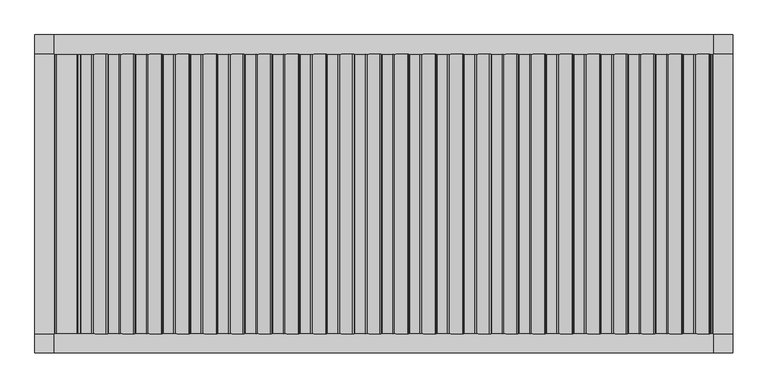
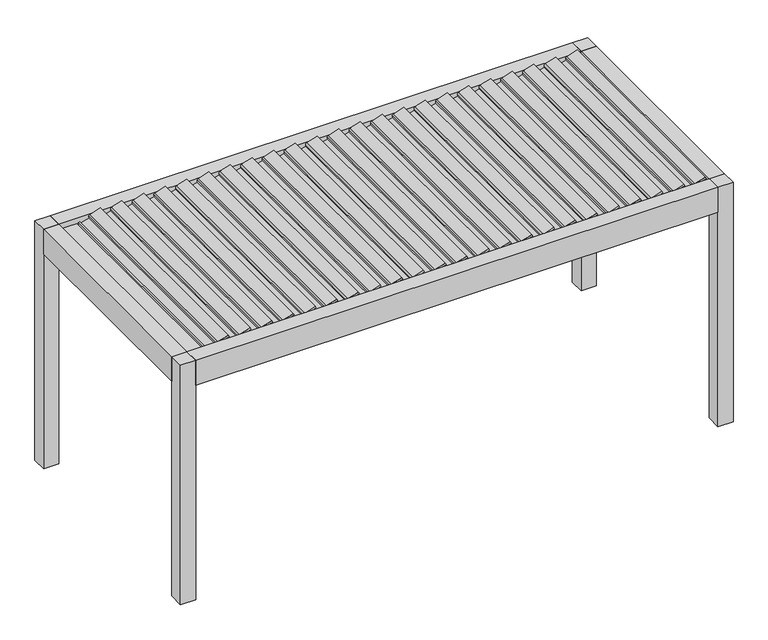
"""IFC4 building model written with IfcOpenShell, lengths in millimetres: proxy geometry, Renson_Camargue_Freestanding_Patio covers : Renson_Camargue_Freestanding_Patio covers."""

from ifc_helpers import new_model, si_unit, point, frame, frame_2d, origin, origin_with_axes, place, context, project, spatial, polyline, circle_curve, trimmed, segment, composite_curve, outline, extrude, source, transform, mapped, element, save


def generic_models_d265cbf2(model_context):
    return source(origin(), model_context, "Body", "SweptSolid", [
        extrude(outline(composite_curve([segment(polyline([(2484.4863486, 2322.3197086), (2511.83214, 2317.4979078), (2520.6331137, 2344.992142), (2538.5732957, 2336.6264977), (2505.0004395, 2231.7449245)]), True, "CONTINUOUS"), segment(trimmed(circle_curve(frame_2d((2490.7145025, 2236.317889)), 15.0), [point((2505.0004395, 2231.7449245))], [point((2489.4071663, 2221.3749685))], False, "CARTESIAN"), True, "CONTINUOUS"), segment(polyline([(2489.4071663, 2221.3749685), (2469.9552563, 2223.0767901), (2447.2475665, 2138.3305382), (2462.9650208, 2131.0013689), (2458.3022482, 2116.4348714), (2430.6272255, 2121.3147246), (2484.4863486, 2322.3197086)]), True, "CONTINUOUS")], self_intersect=False)), frame((0.0, -1100.0, 0.0), z_axis=(0.0, 1.0, 0.0), x_axis=(0.0, 0.0, 1.0)), (0.0, 0.0, 1.0), 2200.0),
        extrude(outline(composite_curve([segment(polyline([(2484.4863486, 2107.3118506), (2511.83214, 2102.4900498), (2520.6331137, 2129.984284), (2538.5732957, 2121.6186397), (2505.0004395, 2016.7370665)]), True, "CONTINUOUS"), segment(trimmed(circle_curve(frame_2d((2490.7145025, 2021.310031)), 15.0), [point((2505.0004395, 2016.7370665))], [point((2489.4071663, 2006.3671105))], False, "CARTESIAN"), True, "CONTINUOUS"), segment(polyline([(2489.4071663, 2006.3671105), (2469.9552563, 2008.0689321), (2447.2475665, 1923.3226802), (2462.9650208, 1915.9935108), (2458.3022482, 1901.4270133), (2430.6272255, 1906.3068665), (2484.4863486, 2107.3118506)]), True, "CONTINUOUS")], self_intersect=False)), frame((0.0, -1100.0, 0.0), z_axis=(0.0, 1.0, 0.0), x_axis=(0.0, 0.0, 1.0)), (0.0, 0.0, 1.0), 2200.0),
        extrude(outline(composite_curve([segment(polyline([(2484.4863486, 1892.3039926), (2511.83214, 1887.4821918), (2520.6331137, 1914.9764259), (2538.5732957, 1906.6107817), (2505.0004395, 1801.7292085)]), True, "CONTINUOUS"), segment(trimmed(circle_curve(frame_2d((2490.7145025, 1806.3021729)), 15.0), [point((2505.0004395, 1801.7292085))], [point((2489.4071663, 1791.3592525))], False, "CARTESIAN"), True, "CONTINUOUS"), segment(polyline([(2489.4071663, 1791.3592525), (2469.9552563, 1793.0610741), (2447.2475665, 1708.3148221), (2462.9650208, 1700.9856528), (2458.3022482, 1686.4191553), (2430.6272255, 1691.2990085), (2484.4863486, 1892.3039926)]), True, "CONTINUOUS")], self_intersect=False)), frame((0.0, -1100.0, 0.0), z_axis=(0.0, 1.0, 0.0), x_axis=(0.0, 0.0, 1.0)), (0.0, 0.0, 1.0), 2200.0),
        extrude(outline(composite_curve([segment(polyline([(2484.4863486, 1677.2961346), (2511.83214, 1672.4743338), (2520.6331137, 1699.9685679), (2538.5732957, 1691.6029236), (2505.0004395, 1586.7213504)]), True, "CONTINUOUS"), segment(trimmed(circle_curve(frame_2d((2490.7145025, 1591.2943149)), 15.0), [point((2505.0004395, 1586.7213504))], [point((2489.4071663, 1576.3513945))], False, "CARTESIAN"), True, "CONTINUOUS"), segment(polyline([(2489.4071663, 1576.3513945), (2469.9552563, 1578.0532161), (2447.2475665, 1493.3069641), (2462.9650208, 1485.9777948), (2458.3022482, 1471.4112973), (2430.6272255, 1476.2911505), (2484.4863486, 1677.2961346)]), True, "CONTINUOUS")], self_intersect=False)), frame((0.0, -1100.0, 0.0), z_axis=(0.0, 1.0, 0.0), x_axis=(0.0, 0.0, 1.0)), (0.0, 0.0, 1.0), 2200.0),
        extrude(outline(composite_curve([segment(polyline([(2484.4863486, 1462.2882766), (2511.83214, 1457.4664757), (2520.6331137, 1484.9607099), (2538.5732957, 1476.5950656), (2505.0004395, 1371.7134924)]), True, "CONTINUOUS"), segment(trimmed(circle_curve(frame_2d((2490.7145025, 1376.2864569)), 15.0), [point((2505.0004395, 1371.7134924))], [point((2489.4071663, 1361.3435364))], False, "CARTESIAN"), True, "CONTINUOUS"), segment(polyline([(2489.4071663, 1361.3435364), (2469.9552563, 1363.045358), (2447.2475665, 1278.2991061), (2462.9650208, 1270.9699368), (2458.3022482, 1256.4034393), (2430.6272255, 1261.2832925), (2484.4863486, 1462.2882766)]), True, "CONTINUOUS")], self_intersect=False)), frame((0.0, -1100.0, 0.0), z_axis=(0.0, 1.0, 0.0), x_axis=(0.0, 0.0, 1.0)), (0.0, 0.0, 1.0), 2200.0),
        extrude(outline(composite_curve([segment(polyline([(2484.4863486, 1247.2804185), (2511.83214, 1242.4586177), (2520.6331137, 1269.9528519), (2538.5732957, 1261.5872076), (2505.0004395, 1156.7056344)]), True, "CONTINUOUS"), segment(trimmed(circle_curve(frame_2d((2490.7145025, 1161.2785989)), 15.0), [point((2505.0004395, 1156.7056344))], [point((2489.4071663, 1146.3356784))], False, "CARTESIAN"), True, "CONTINUOUS"), segment(polyline([(2489.4071663, 1146.3356784), (2469.9552563, 1148.0375), (2447.2475665, 1063.2912481), (2462.9650208, 1055.9620787), (2458.3022482, 1041.3955813), (2430.6272255, 1046.2754345), (2484.4863486, 1247.2804185)]), True, "CONTINUOUS")], self_intersect=False)), frame((0.0, -1100.0, 0.0), z_axis=(0.0, 1.0, 0.0), x_axis=(0.0, 0.0, 1.0)), (0.0, 0.0, 1.0), 2200.0),
        extrude(outline(composite_curve([segment(polyline([(2484.4863486, 1032.2725605), (2511.83214, 1027.4507597), (2520.6331137, 1054.9449938), (2538.5732957, 1046.5793496), (2505.0004395, 941.6977764)]), True, "CONTINUOUS"), segment(trimmed(circle_curve(frame_2d((2490.7145025, 946.2707409)), 15.0), [point((2505.0004395, 941.6977764))], [point((2489.4071663, 931.3278204))], False, "CARTESIAN"), True, "CONTINUOUS"), segment(polyline([(2489.4071663, 931.3278204), (2469.9552563, 933.029642), (2447.2475665, 848.28339), (2462.9650208, 840.9542207), (2458.3022482, 826.3877232), (2430.6272255, 831.2675764), (2484.4863486, 1032.2725605)]), True, "CONTINUOUS")], self_intersect=False)), frame((0.0, -1100.0, 0.0), z_axis=(0.0, 1.0, 0.0), x_axis=(0.0, 0.0, 1.0)), (0.0, 0.0, 1.0), 2200.0),
        extrude(outline(composite_curve([segment(polyline([(2484.4863486, 817.2647025), (2511.83214, 812.4429017), (2520.6331137, 839.9371358), (2538.5732957, 831.5714915), (2505.0004395, 726.6899183)]), True, "CONTINUOUS"), segment(trimmed(circle_curve(frame_2d((2490.7145025, 731.2628828)), 15.0), [point((2505.0004395, 726.6899183))], [point((2489.4071663, 716.3199624))], False, "CARTESIAN"), True, "CONTINUOUS"), segment(polyline([(2489.4071663, 716.3199624), (2469.9552563, 718.021784), (2447.2475665, 633.275532), (2462.9650208, 625.9463627), (2458.3022482, 611.3798652), (2430.6272255, 616.2597184), (2484.4863486, 817.2647025)]), True, "CONTINUOUS")], self_intersect=False)), frame((0.0, -1100.0, 0.0), z_axis=(0.0, 1.0, 0.0), x_axis=(0.0, 0.0, 1.0)), (0.0, 0.0, 1.0), 2200.0),
        extrude(outline(composite_curve([segment(polyline([(2484.4863486, 602.2568445), (2511.83214, 597.4350436), (2520.6331137, 624.9292778), (2538.5732957, 616.5636335), (2505.0004395, 511.6820603)]), True, "CONTINUOUS"), segment(trimmed(circle_curve(frame_2d((2490.7145025, 516.2550248)), 15.0), [point((2505.0004395, 511.6820603))], [point((2489.4071663, 501.3121043))], False, "CARTESIAN"), True, "CONTINUOUS"), segment(polyline([(2489.4071663, 501.3121043), (2469.9552563, 503.013926), (2447.2475665, 418.267674), (2462.9650208, 410.9385047), (2458.3022482, 396.3720072), (2430.6272255, 401.2518604), (2484.4863486, 602.2568445)]), True, "CONTINUOUS")], self_intersect=False)), frame((0.0, -1100.0, 0.0), z_axis=(0.0, 1.0, 0.0), x_axis=(0.0, 0.0, 1.0)), (0.0, 0.0, 1.0), 2200.0),
        extrude(outline(composite_curve([segment(polyline([(2484.4863486, 387.2489864), (2511.83214, 382.4271856), (2520.6331137, 409.9214198), (2538.5732957, 401.5557755), (2505.0004395, 296.6742023)]), True, "CONTINUOUS"), segment(trimmed(circle_curve(frame_2d((2490.7145025, 301.2471668)), 15.0), [point((2505.0004395, 296.6742023))], [point((2489.4071663, 286.3042463))], False, "CARTESIAN"), True, "CONTINUOUS"), segment(polyline([(2489.4071663, 286.3042463), (2469.9552563, 288.0060679), (2447.2475665, 203.259816), (2462.9650208, 195.9306466), (2458.3022482, 181.3641492), (2430.6272255, 186.2440024), (2484.4863486, 387.2489864)]), True, "CONTINUOUS")], self_intersect=False)), frame((0.0, -1100.0, 0.0), z_axis=(0.0, 1.0, 0.0), x_axis=(0.0, 0.0, 1.0)), (0.0, 0.0, 1.0), 2200.0),
        extrude(outline(composite_curve([segment(polyline([(2484.4863486, 172.2411284), (2511.83214, 167.4193276), (2520.6331137, 194.9135617), (2538.5732957, 186.5479175), (2505.0004395, 81.6663443)]), True, "CONTINUOUS"), segment(trimmed(circle_curve(frame_2d((2490.7145025, 86.2393088)), 15.0), [point((2505.0004395, 81.6663443))], [point((2489.4071663, 71.2963883))], False, "CARTESIAN"), True, "CONTINUOUS"), segment(polyline([(2489.4071663, 71.2963883), (2469.9552563, 72.9982099), (2447.2475665, -11.7480421), (2462.9650208, -19.0772114), (2458.3022482, -33.6437089), (2430.6272255, -28.7638557), (2484.4863486, 172.2411284)]), True, "CONTINUOUS")], self_intersect=False)), frame((0.0, -1100.0, 0.0), z_axis=(0.0, 1.0, 0.0), x_axis=(0.0, 0.0, 1.0)), (0.0, 0.0, 1.0), 2200.0),
        extrude(outline(composite_curve([segment(polyline([(2484.4863486, -42.7667296), (2511.83214, -47.5885304), (2520.6331137, -20.0942963), (2538.5732957, -28.4599406), (2505.0004395, -133.3415137)]), True, "CONTINUOUS"), segment(trimmed(circle_curve(frame_2d((2490.7145025, -128.7685493)), 15.0), [point((2505.0004395, -133.3415137))], [point((2489.4071663, -143.7114697))], False, "CARTESIAN"), True, "CONTINUOUS"), segment(polyline([(2489.4071663, -143.7114697), (2469.9552563, -142.0096481), (2447.2475665, -226.7559001), (2462.9650208, -234.0850694), (2458.3022482, -248.6515669), (2430.6272255, -243.7717137), (2484.4863486, -42.7667296)]), True, "CONTINUOUS")], self_intersect=False)), frame((0.0, -1100.0, 0.0), z_axis=(0.0, 1.0, 0.0), x_axis=(0.0, 0.0, 1.0)), (0.0, 0.0, 1.0), 2200.0),
        extrude(outline(composite_curve([segment(polyline([(2484.4863486, -257.7745876), (2511.83214, -262.5963884), (2520.6331137, -235.1021543), (2538.5732957, -243.4677986), (2505.0004395, -348.3493718)]), True, "CONTINUOUS"), segment(trimmed(circle_curve(frame_2d((2490.7145025, -343.7764073)), 15.0), [point((2505.0004395, -348.3493718))], [point((2489.4071663, -358.7193278))], False, "CARTESIAN"), True, "CONTINUOUS"), segment(polyline([(2489.4071663, -358.7193278), (2469.9552563, -357.0175061), (2447.2475665, -441.7637581), (2462.9650208, -449.0929274), (2458.3022482, -463.6594249), (2430.6272255, -458.7795717), (2484.4863486, -257.7745876)]), True, "CONTINUOUS")], self_intersect=False)), frame((0.0, -1100.0, 0.0), z_axis=(0.0, 1.0, 0.0), x_axis=(0.0, 0.0, 1.0)), (0.0, 0.0, 1.0), 2200.0),
        extrude(outline(composite_curve([segment(polyline([(2484.4863486, -472.7824457), (2511.83214, -477.6042465), (2520.6331137, -450.1100123), (2538.5732957, -458.4756566), (2505.0004395, -563.3572298)]), True, "CONTINUOUS"), segment(trimmed(circle_curve(frame_2d((2490.7145025, -558.7842653)), 15.0), [point((2505.0004395, -563.3572298))], [point((2489.4071663, -573.7271858))], False, "CARTESIAN"), True, "CONTINUOUS"), segment(polyline([(2489.4071663, -573.7271858), (2469.9552563, -572.0253642), (2447.2475665, -656.7716161), (2462.9650208, -664.1007854), (2458.3022482, -678.6672829), (2430.6272255, -673.7874297), (2484.4863486, -472.7824457)]), True, "CONTINUOUS")], self_intersect=False)), frame((0.0, -1100.0, 0.0), z_axis=(0.0, 1.0, 0.0), x_axis=(0.0, 0.0, 1.0)), (0.0, 0.0, 1.0), 2200.0),
        extrude(outline(composite_curve([segment(polyline([(2484.4863486, -687.7903037), (2511.83214, -692.6121045), (2520.6331137, -665.1178703), (2538.5732957, -673.4835146), (2505.0004395, -778.3650878)]), True, "CONTINUOUS"), segment(trimmed(circle_curve(frame_2d((2490.7145025, -773.7921233)), 15.0), [point((2505.0004395, -778.3650878))], [point((2489.4071663, -788.7350438))], False, "CARTESIAN"), True, "CONTINUOUS"), segment(polyline([(2489.4071663, -788.7350438), (2469.9552563, -787.0332222), (2447.2475665, -871.7794741), (2462.9650208, -879.1086435), (2458.3022482, -893.675141), (2430.6272255, -888.7952878), (2484.4863486, -687.7903037)]), True, "CONTINUOUS")], self_intersect=False)), frame((0.0, -1100.0, 0.0), z_axis=(0.0, 1.0, 0.0), x_axis=(0.0, 0.0, 1.0)), (0.0, 0.0, 1.0), 2200.0),
        extrude(outline(composite_curve([segment(polyline([(2484.4863486, -902.7981617), (2511.83214, -907.6199625), (2520.6331137, -880.1257284), (2538.5732957, -888.4913726), (2505.0004395, -993.3729458)]), True, "CONTINUOUS"), segment(trimmed(circle_curve(frame_2d((2490.7145025, -988.7999814)), 15.0), [point((2505.0004395, -993.3729458))], [point((2489.4071663, -1003.7429018))], False, "CARTESIAN"), True, "CONTINUOUS"), segment(polyline([(2489.4071663, -1003.7429018), (2469.9552563, -1002.0410802), (2447.2475665, -1086.7873322), (2462.9650208, -1094.1165015), (2458.3022482, -1108.682999), (2430.6272255, -1103.8031458), (2484.4863486, -902.7981617)]), True, "CONTINUOUS")], self_intersect=False)), frame((0.0, -1100.0, 0.0), z_axis=(0.0, 1.0, 0.0), x_axis=(0.0, 0.0, 1.0)), (0.0, 0.0, 1.0), 2200.0),
        extrude(outline(composite_curve([segment(polyline([(2484.4863486, -1117.8060197), (2511.83214, -1122.6278205), (2520.6331137, -1095.1335864), (2538.5732957, -1103.4992307), (2505.0004395, -1208.3808039)]), True, "CONTINUOUS"), segment(trimmed(circle_curve(frame_2d((2490.7145025, -1203.8078394)), 15.0), [point((2505.0004395, -1208.3808039))], [point((2489.4071663, -1218.7507598))], False, "CARTESIAN"), True, "CONTINUOUS"), segment(polyline([(2489.4071663, -1218.7507598), (2469.9552563, -1217.0489382), (2447.2475665, -1301.7951902), (2462.9650208, -1309.1243595), (2458.3022482, -1323.690857), (2430.6272255, -1318.8110038), (2484.4863486, -1117.8060197)]), True, "CONTINUOUS")], self_intersect=False)), frame((0.0, -1100.0, 0.0), z_axis=(0.0, 1.0, 0.0), x_axis=(0.0, 0.0, 1.0)), (0.0, 0.0, 1.0), 2200.0),
        extrude(outline(composite_curve([segment(polyline([(2484.4863486, -1332.8138777), (2511.83214, -1337.6356786), (2520.6331137, -1310.1414444), (2538.5732957, -1318.5070887), (2505.0004395, -1423.3886619)]), True, "CONTINUOUS"), segment(trimmed(circle_curve(frame_2d((2490.7145025, -1418.8156974)), 15.0), [point((2505.0004395, -1423.3886619))], [point((2489.4071663, -1433.7586179))], False, "CARTESIAN"), True, "CONTINUOUS"), segment(polyline([(2489.4071663, -1433.7586179), (2469.9552563, -1432.0567963), (2447.2475665, -1516.8030482), (2462.9650208, -1524.1322175), (2458.3022482, -1538.698715), (2430.6272255, -1533.8188618), (2484.4863486, -1332.8138777)]), True, "CONTINUOUS")], self_intersect=False)), frame((0.0, -1100.0, 0.0), z_axis=(0.0, 1.0, 0.0), x_axis=(0.0, 0.0, 1.0)), (0.0, 0.0, 1.0), 2200.0),
        extrude(outline(composite_curve([segment(polyline([(2484.4863486, -1547.8217358), (2511.83214, -1552.6435366), (2520.6331137, -1525.1493024), (2538.5732957, -1533.5149467), (2505.0004395, -1638.3965199)]), True, "CONTINUOUS"), segment(trimmed(circle_curve(frame_2d((2490.7145025, -1633.8235554)), 15.0), [point((2505.0004395, -1638.3965199))], [point((2489.4071663, -1648.7664759))], False, "CARTESIAN"), True, "CONTINUOUS"), segment(polyline([(2489.4071663, -1648.7664759), (2469.9552563, -1647.0646543), (2447.2475665, -1731.8109062), (2462.9650208, -1739.1400756), (2458.3022482, -1753.706573), (2430.6272255, -1748.8267198), (2484.4863486, -1547.8217358)]), True, "CONTINUOUS")], self_intersect=False)), frame((0.0, -1100.0, 0.0), z_axis=(0.0, 1.0, 0.0), x_axis=(0.0, 0.0, 1.0)), (0.0, 0.0, 1.0), 2200.0),
        extrude(outline(composite_curve([segment(polyline([(2484.4863486, -1762.8295938), (2511.83214, -1767.6513946), (2520.6331137, -1740.1571605), (2538.5732957, -1748.5228047), (2505.0004395, -1853.4043779)]), True, "CONTINUOUS"), segment(trimmed(circle_curve(frame_2d((2490.7145025, -1848.8314134)), 15.0), [point((2505.0004395, -1853.4043779))], [point((2489.4071663, -1863.7743339))], False, "CARTESIAN"), True, "CONTINUOUS"), segment(polyline([(2489.4071663, -1863.7743339), (2469.9552563, -1862.0725123), (2447.2475665, -1946.8187643), (2462.9650208, -1954.1479336), (2458.3022482, -1968.7144311), (2430.6272255, -1963.8345779), (2484.4863486, -1762.8295938)]), True, "CONTINUOUS")], self_intersect=False)), frame((0.0, -1100.0, 0.0), z_axis=(0.0, 1.0, 0.0), x_axis=(0.0, 0.0, 1.0)), (0.0, 0.0, 1.0), 2200.0),
        extrude(outline(composite_curve([segment(polyline([(2484.4863486, -1977.8374518), (2511.83214, -1982.6592526), (2520.6331137, -1955.1650185), (2538.5732957, -1963.5306628), (2505.0004395, -2068.412236)]), True, "CONTINUOUS"), segment(trimmed(circle_curve(frame_2d((2490.7145025, -2063.8392715)), 15.0), [point((2505.0004395, -2068.412236))], [point((2489.4071663, -2078.7821919))], False, "CARTESIAN"), True, "CONTINUOUS"), segment(polyline([(2489.4071663, -2078.7821919), (2469.9552563, -2077.0803703), (2447.2475665, -2161.8266223), (2462.9650208, -2169.1557916), (2458.3022482, -2183.7222891), (2430.6272255, -2178.8424359), (2484.4863486, -1977.8374518)]), True, "CONTINUOUS")], self_intersect=False)), frame((0.0, -1100.0, 0.0), z_axis=(0.0, 1.0, 0.0), x_axis=(0.0, 0.0, 1.0)), (0.0, 0.0, 1.0), 2200.0),
        extrude(outline(composite_curve([segment(polyline([(2484.4863486, 2537.3275667), (2511.83214, 2532.5057659), (2520.6331137, 2560.0), (2538.5732957, 2551.6343557), (2505.0004395, 2446.7527825)]), True, "CONTINUOUS"), segment(trimmed(circle_curve(frame_2d((2490.7145025, 2451.325747)), 15.0), [point((2505.0004395, 2446.7527825))], [point((2489.4071663, 2436.3828265))], False, "CARTESIAN"), True, "CONTINUOUS"), segment(polyline([(2489.4071663, 2436.3828265), (2469.9552563, 2438.0846482), (2447.2475665, 2353.3383962), (2462.9650208, 2346.0092269), (2458.3022482, 2331.4427294), (2430.6272255, 2336.3225826), (2484.4863486, 2537.3275667)]), True, "CONTINUOUS")], self_intersect=False)), frame((0.0, -1100.0, 0.0), z_axis=(0.0, 1.0, 0.0), x_axis=(0.0, 0.0, 1.0)), (0.0, 0.0, 1.0), 2200.0),
        extrude(outline(composite_curve([segment(polyline([(2484.4863486, -2192.8453098), (2511.83214, -2197.6671107), (2520.6331137, -2170.1728765), (2538.5732957, -2178.5385208), (2505.0004395, -2283.420094)]), True, "CONTINUOUS"), segment(trimmed(circle_curve(frame_2d((2490.7145025, -2278.8471295)), 15.0), [point((2505.0004395, -2283.420094))], [point((2489.4071663, -2293.79005))], False, "CARTESIAN"), True, "CONTINUOUS"), segment(polyline([(2489.4071663, -2293.79005), (2469.9552563, -2292.0882283), (2447.2475665, -2376.8344803), (2462.9650208, -2384.1636496), (2458.3022482, -2398.7301471), (2430.6272255, -2393.8502939), (2484.4863486, -2192.8453098)]), True, "CONTINUOUS")], self_intersect=False)), frame((0.0, -1100.0, 0.0), z_axis=(0.0, 1.0, 0.0), x_axis=(0.0, 0.0, 1.0)), (0.0, 0.0, 1.0), 2200.0),
        extrude(outline(polyline([(2441.6559373, -2590.0), (2441.6559373, -2415.0), (2455.6555802, -2411.2487113), (2455.6555802, -2569.5940945), (2471.400763, -2585.0), (2479.2449277, -2585.0), (2479.6823598, -2590.0), (2441.6559373, -2590.0)])), frame((0.0, -1100.0, 0.0), z_axis=(0.0, 1.0, 0.0), x_axis=(0.0, 0.0, 1.0)), (0.0, 0.0, 1.0), 2200.0),
        extrude(outline(polyline([(-2590.0, -1100.0), (-2740.0, -1100.0), (-2740.0, 1100.0), (-2590.0, 1100.0), (-2590.0, -1100.0)])), frame((0.0, 0.0, 2250.0), z_axis=(0.0, 0.0, 1.0), x_axis=(1.0, 0.0, 0.0)), (0.0, 0.0, 1.0), 260.0),
        extrude(outline(polyline([(2510.0, 2740.0), (2510.0, 2590.0), (2479.6904658, 2590.0), (2479.2449277, 2585.0), (2471.400763, 2585.0), (2455.6555802, 2569.2544156), (2455.6555802, 2559.9090324), (2441.6559373, 2563.6603211), (2441.6559373, 2590.0), (2250.0, 2590.0), (2250.0, 2740.0), (2510.0, 2740.0)])), frame((0.0, -1100.0, 0.0), z_axis=(0.0, 1.0, 0.0), x_axis=(0.0, 0.0, 1.0)), (0.0, 0.0, 1.0), 2200.0),
        extrude(outline(polyline([(-1100.0, 2510.0), (-1100.0, 2322.0), (-1030.0000001, 2322.0), (-1030.0000001, 2250.0), (-1250.0, 2250.0), (-1250.0, 2510.0), (-1100.0, 2510.0)])), frame((-2590.0, 0.0, 0.0), z_axis=(1.0, 0.0, 0.0), x_axis=(0.0, 1.0, 0.0)), (0.0, 0.0, 1.0), 5180.0),
        extrude(outline(polyline([(1250.0, 2250.0), (1030.0000001, 2250.0), (1030.0000001, 2322.0), (1100.0, 2322.0), (1100.0, 2510.0), (1250.0, 2510.0), (1250.0, 2250.0)])), frame((-2590.0, 0.0, 0.0), z_axis=(1.0, 0.0, 0.0), x_axis=(0.0, 1.0, 0.0)), (0.0, 0.0, 1.0), 5180.0),
        extrude(outline(polyline([(-2590.0, 1250.0), (-2590.0, 1100.0), (-2740.0, 1100.0), (-2740.0, 1250.0), (-2590.0, 1250.0)])), origin_with_axes(), (0.0, 0.0, 1.0), 2510.0),
        extrude(outline(polyline([(2740.0, 1250.0), (2740.0, 1100.0), (2590.0, 1100.0), (2590.0, 1250.0), (2740.0, 1250.0)])), origin_with_axes(), (0.0, 0.0, 1.0), 2510.0),
        extrude(outline(polyline([(2740.0, -1100.0), (2740.0, -1250.0), (2590.0, -1250.0), (2590.0, -1100.0), (2740.0, -1100.0)])), origin_with_axes(), (0.0, 0.0, 1.0), 2510.0),
        extrude(outline(polyline([(-2590.0, -1100.0), (-2590.0, -1250.0), (-2740.0, -1250.0), (-2740.0, -1100.0), (-2590.0, -1100.0)])), origin_with_axes(), (0.0, 0.0, 1.0), 2510.0),
    ])


if __name__ == "__main__":
    model = new_model("IFC4")
    model_context = context("Model", 3, world=origin())
    ifc_project = project(units=[si_unit("LENGTHUNIT", "METRE", prefix="MILLI")], contexts=[model_context])
    site = spatial("IfcSite", under=ifc_project)
    building = spatial("IfcBuilding", under=site)
    placement = place(None, origin())
    generic_models_shape = generic_models_d265cbf2(model_context)
    element("IfcBuildingElementProxy", 1, Name="Renson_Camargue_Freestanding_Patio covers : Renson_Camargue_Freestanding_Patio covers", ObjectType="Renson_Camargue_Freestanding_Patio covers : Renson_Camargue_Freestanding_Patio covers", at=placement, inside=building, context=model_context, shape_type="MappedRepresentation", body=[
        mapped(generic_models_shape, transform((0.0, 0.0, 0.0), x_axis=(1.0, 0.0, 0.0), y_axis=(0.0, 1.0, 0.0), z_axis=(0.0, 0.0, 1.0))),
    ])
    save(model, "model.ifc")
